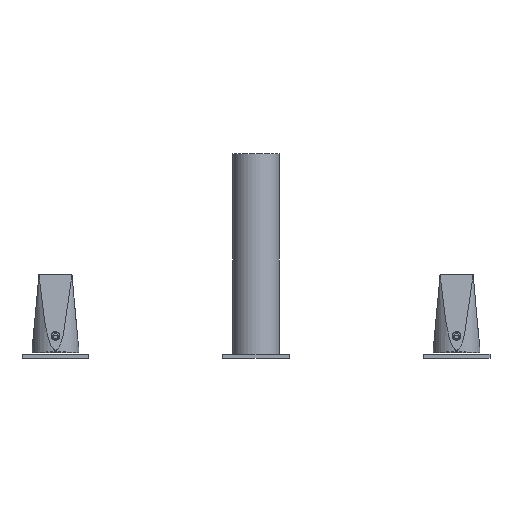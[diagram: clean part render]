
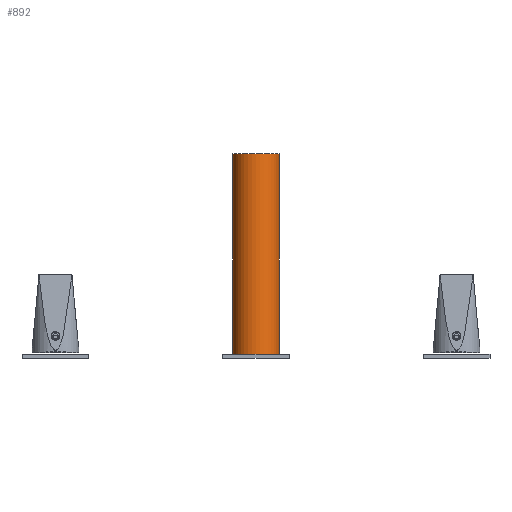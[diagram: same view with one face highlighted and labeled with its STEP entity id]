
A CAD part, top view. The second image highlights one B-rep face of the part: STEP entity #892.
In plain terms, the highlighted cylindrical face has radius 17.5 mm (diameter 35 mm), a partial arc.
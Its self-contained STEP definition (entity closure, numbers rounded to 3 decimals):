
#109=CARTESIAN_POINT('',(0.,0.,0.));
#110=DIRECTION('',(0.,-1.,0.));
#111=DIRECTION('',(1.,0.,0.));
#112=AXIS2_PLACEMENT_3D('',#109,#110,#111);
#114=DIRECTION('',(0.,-1.,0.));
#115=VECTOR('',#114,144.);
#116=CARTESIAN_POINT('',(-17.5,144.,0.));
#117=LINE('',#116,#115);
#118=DIRECTION('',(0.,-1.,0.));
#119=VECTOR('',#118,144.);
#120=CARTESIAN_POINT('',(17.5,144.,0.));
#121=LINE('',#120,#119);
#126=DIRECTION('',(0.,-1.,0.));
#127=VECTOR('',#126,6.);
#128=CARTESIAN_POINT('',(-17.5,150.,0.));
#129=LINE('',#128,#127);
#134=DIRECTION('',(0.,1.,0.));
#135=VECTOR('',#134,6.);
#136=CARTESIAN_POINT('',(17.5,144.,0.));
#137=LINE('',#136,#135);
#138=CARTESIAN_POINT('',(0.,150.,0.));
#139=DIRECTION('',(0.,1.,0.));
#140=DIRECTION('',(-1.,0.,0.));
#141=AXIS2_PLACEMENT_3D('',#138,#139,#140);
#511=CARTESIAN_POINT('',(-17.5,144.,0.));
#512=CARTESIAN_POINT('',(17.5,144.,0.));
#513=VERTEX_POINT('',#511);
#514=VERTEX_POINT('',#512);
#515=CARTESIAN_POINT('',(-17.5,150.,0.));
#516=CARTESIAN_POINT('',(17.5,150.,0.));
#517=VERTEX_POINT('',#515);
#518=VERTEX_POINT('',#516);
#547=CARTESIAN_POINT('',(-17.5,0.,0.));
#548=CARTESIAN_POINT('',(17.5,0.,0.));
#549=VERTEX_POINT('',#547);
#550=VERTEX_POINT('',#548);
#876=CARTESIAN_POINT('',(0.,151.2,0.));
#877=DIRECTION('',(0.,-1.,0.));
#878=DIRECTION('',(-1.,0.,0.));
#879=AXIS2_PLACEMENT_3D('',#876,#877,#878);
#880=CYLINDRICAL_SURFACE('',#879,17.5);
#881=ORIENTED_EDGE('',*,*,#803,.T.);
#882=ORIENTED_EDGE('',*,*,#782,.F.);
#884=ORIENTED_EDGE('',*,*,#883,.F.);
#886=ORIENTED_EDGE('',*,*,#885,.T.);
#888=ORIENTED_EDGE('',*,*,#887,.F.);
#889=ORIENTED_EDGE('',*,*,#779,.T.);
#890=EDGE_LOOP('',(#881,#882,#884,#886,#888,#889));
#891=FACE_OUTER_BOUND('',#890,.F.);
#892=ADVANCED_FACE('',(#891),#880,.T.);
#113=CIRCLE('',#112,17.5);
#142=CIRCLE('',#141,17.5);
#779=EDGE_CURVE('',#514,#550,#121,.T.);
#782=EDGE_CURVE('',#513,#549,#117,.T.);
#803=EDGE_CURVE('',#550,#549,#113,.T.);
#883=EDGE_CURVE('',#517,#513,#129,.T.);
#885=EDGE_CURVE('',#517,#518,#142,.T.);
#887=EDGE_CURVE('',#514,#518,#137,.T.);
